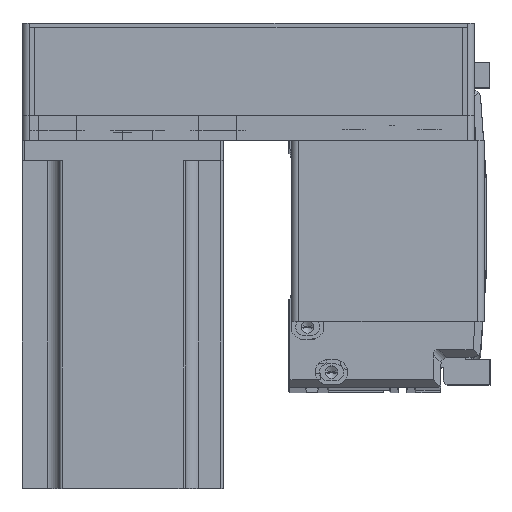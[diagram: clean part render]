
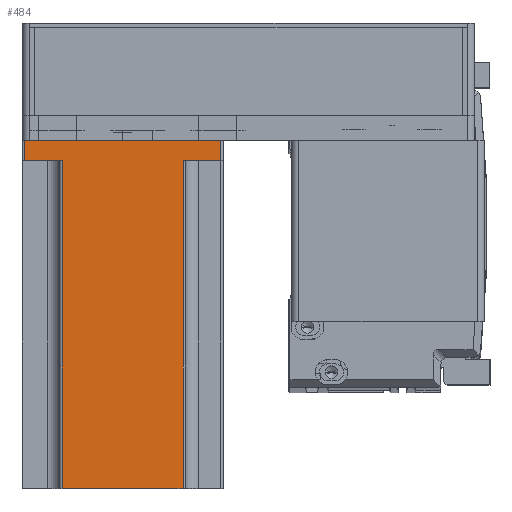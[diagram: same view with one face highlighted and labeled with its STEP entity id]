
A CAD part, top view. The second image highlights one B-rep face of the part: STEP entity #484.
In plain terms, the highlighted planar face has unit normal (0, 0, 1) as drawn and (0, 1, 0) by its records, which use the part's own axes.
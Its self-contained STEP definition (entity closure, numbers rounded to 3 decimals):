
#484 = ADVANCED_FACE ( 'NONE', ( #621 ), #968, .F. ) ;
#621 = FACE_OUTER_BOUND ( 'NONE', #20248, .T. ) ;
#760 = CARTESIAN_POINT ( 'NONE',  ( 25., 40., 8. ) ) ;
#968 = PLANE ( 'NONE',  #24721 ) ;
#1293 = CARTESIAN_POINT ( 'NONE',  ( 39., 40., 8. ) ) ;
#1550 = VERTEX_POINT ( 'NONE', #12797 ) ;
#1718 = CARTESIAN_POINT ( 'NONE',  ( 24., 40., 138.3 ) ) ;
#1853 = ORIENTED_EDGE ( 'NONE', *, *, #38923, .T. ) ;
#2509 = VECTOR ( 'NONE', #5342, 1000. ) ;
#4735 = VECTOR ( 'NONE', #32513, 1000. ) ;
#5069 = VERTEX_POINT ( 'NONE', #36955 ) ;
#5342 = DIRECTION ( 'NONE',  ( 0., 0., -1. ) ) ;
#6322 = VERTEX_POINT ( 'NONE', #20069 ) ;
#6814 = VERTEX_POINT ( 'NONE', #1293 ) ;
#7541 = LINE ( 'NONE', #14134, #14834 ) ;
#7726 = VECTOR ( 'NONE', #7994, 1000. ) ;
#7794 = ORIENTED_EDGE ( 'NONE', *, *, #9850, .T. ) ;
#7994 = DIRECTION ( 'NONE',  ( -1., 0., 0. ) ) ;
#8354 = VECTOR ( 'NONE', #43824, 1000. ) ;
#9063 = CARTESIAN_POINT ( 'NONE',  ( -24., 40., 138.3 ) ) ;
#9850 = EDGE_CURVE ( 'NONE', #25438, #37039, #44940, .T. ) ;
#10640 = DIRECTION ( 'NONE',  ( 0., 0., -1. ) ) ;
#11221 = ORIENTED_EDGE ( 'NONE', *, *, #41776, .F. ) ;
#11386 = VERTEX_POINT ( 'NONE', #46102 ) ;
#12797 = CARTESIAN_POINT ( 'NONE',  ( -39., 40., 8. ) ) ;
#14064 = VERTEX_POINT ( 'NONE', #9063 ) ;
#14134 = CARTESIAN_POINT ( 'NONE',  ( 39., 40., 138.3 ) ) ;
#14834 = VECTOR ( 'NONE', #10640, 1000. ) ;
#16099 = EDGE_CURVE ( 'NONE', #11386, #14064, #41988, .T. ) ;
#17387 = EDGE_CURVE ( 'NONE', #6322, #5069, #39691, .T. ) ;
#17783 = EDGE_CURVE ( 'NONE', #1550, #11386, #43032, .T. ) ;
#18604 = DIRECTION ( 'NONE',  ( 0., 0., 1. ) ) ;
#19019 = DIRECTION ( 'NONE',  ( 1., 0., 0. ) ) ;
#20069 = CARTESIAN_POINT ( 'NONE',  ( 24., 40., 138.3 ) ) ;
#20248 = EDGE_LOOP ( 'NONE', ( #30081, #45927, #21275, #42956, #11221, #45746, #7794, #1853 ) ) ;
#20995 = CARTESIAN_POINT ( 'NONE',  ( -39., 40., 0. ) ) ;
#21275 = ORIENTED_EDGE ( 'NONE', *, *, #44956, .F. ) ;
#22800 = VECTOR ( 'NONE', #18604, 1000. ) ;
#22979 = DIRECTION ( 'NONE',  ( 0., 0., 1. ) ) ;
#23840 = CARTESIAN_POINT ( 'NONE',  ( 40., 40., 0. ) ) ;
#24721 = AXIS2_PLACEMENT_3D ( 'NONE', #24905, #32302, #19019 ) ;
#24905 = CARTESIAN_POINT ( 'NONE',  ( 40., 40., 138.3 ) ) ;
#25438 = VERTEX_POINT ( 'NONE', #28387 ) ;
#25722 = CARTESIAN_POINT ( 'NONE',  ( -24., 40., 138.3 ) ) ;
#25873 = CARTESIAN_POINT ( 'NONE',  ( 40., 40., 138.3 ) ) ;
#28387 = CARTESIAN_POINT ( 'NONE',  ( 39., 40., 0. ) ) ;
#30081 = ORIENTED_EDGE ( 'NONE', *, *, #17783, .T. ) ;
#31102 = DIRECTION ( 'NONE',  ( -1., 0., 0. ) ) ;
#31963 = VECTOR ( 'NONE', #31102, 1000. ) ;
#32302 = DIRECTION ( 'NONE',  ( 0., -1., 0. ) ) ;
#32513 = DIRECTION ( 'NONE',  ( 1., 0., 0. ) ) ;
#34489 = LINE ( 'NONE', #44594, #42925 ) ;
#35305 = LINE ( 'NONE', #760, #7726 ) ;
#36119 = CARTESIAN_POINT ( 'NONE',  ( -25., 40., 8. ) ) ;
#36955 = CARTESIAN_POINT ( 'NONE',  ( 24., 40., 8. ) ) ;
#37039 = VERTEX_POINT ( 'NONE', #20995 ) ;
#37094 = LINE ( 'NONE', #25873, #8354 ) ;
#37608 = EDGE_CURVE ( 'NONE', #6814, #25438, #7541, .T. ) ;
#38923 = EDGE_CURVE ( 'NONE', #37039, #1550, #34489, .T. ) ;
#39691 = LINE ( 'NONE', #1718, #2509 ) ;
#41776 = EDGE_CURVE ( 'NONE', #6814, #5069, #35305, .T. ) ;
#41988 = LINE ( 'NONE', #25722, #22800 ) ;
#42925 = VECTOR ( 'NONE', #22979, 1000. ) ;
#42956 = ORIENTED_EDGE ( 'NONE', *, *, #17387, .T. ) ;
#43032 = LINE ( 'NONE', #36119, #4735 ) ;
#43824 = DIRECTION ( 'NONE',  ( -1., 0., 0. ) ) ;
#44594 = CARTESIAN_POINT ( 'NONE',  ( -39., 40., 138.3 ) ) ;
#44940 = LINE ( 'NONE', #23840, #31963 ) ;
#44956 = EDGE_CURVE ( 'NONE', #6322, #14064, #37094, .T. ) ;
#45746 = ORIENTED_EDGE ( 'NONE', *, *, #37608, .T. ) ;
#45927 = ORIENTED_EDGE ( 'NONE', *, *, #16099, .T. ) ;
#46102 = CARTESIAN_POINT ( 'NONE',  ( -24., 40., 8. ) ) ;
